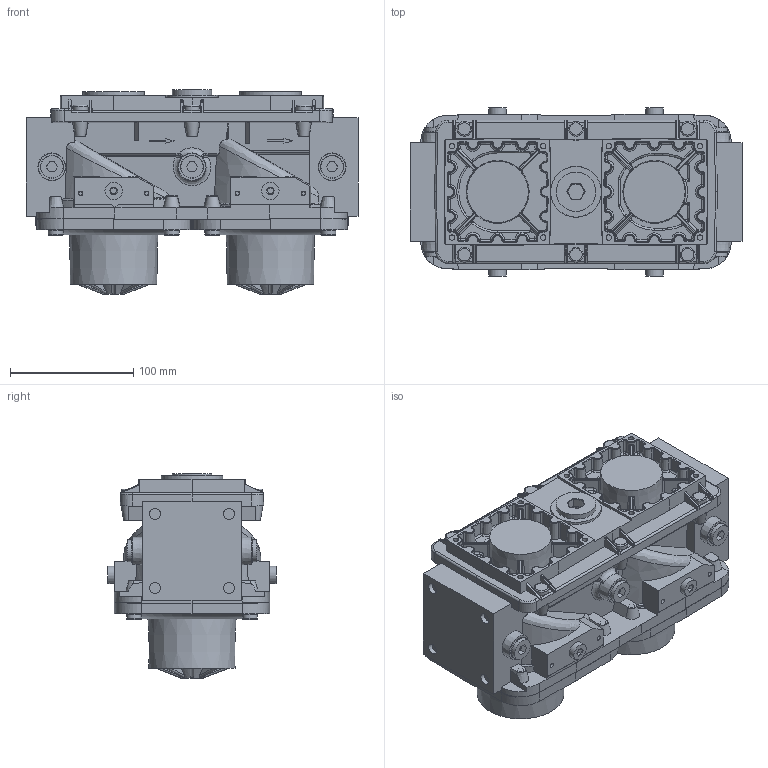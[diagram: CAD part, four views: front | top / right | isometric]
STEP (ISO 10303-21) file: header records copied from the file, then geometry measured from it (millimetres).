
FILE_DESCRIPTION(/* description */ (''),/* implementation_level */ '2;1');
FILE_NAME(/* name */ 'A5W00008884_01.stp',/* time_stamp */ '2016-09-28T09:30:18+02:00',/* author */ (''),/* organization */ (''),/* preprocessor_version */ 'ST-DEVELOPER v15',/* originating_system */ 'SIEMENS PLM Software NX 8.5',/* authorisation */ '');
FILE_SCHEMA (('AUTOMOTIVE_DESIGN { 1 0 10303 214 3 1 1 1 }'));
Products named in the file (1): ront10700C5F7c2d
Bounding box: 269 x 136.2 x 165.3 mm (x, y, z)
Volume: 2964540.7 mm3; surface area: 251139.8 mm2
Topology: 1 solids, 74 shells, 2451 faces, 5864 edges, 3499 vertices
Faces by surface type: plane 876, bspline 685, cylinder 398, cone 218, torus 190, sphere 84
Full cylindrical faces by diameter (mm): 4.351 x8, 5 x4, 6 x18, 6.5 x6, 7 x6, 9 x14, 9.728 x4, 10 x4, 11.45 x2, 12 x14, 13.5 x6, 14 x5, 18 x6, 18.5 x6, 32 x1
Entity records: 87903 total; most frequent: CARTESIAN_POINT 38250, ORIENTED_EDGE 10702, DIRECTION 9284, EDGE_CURVE 5351, AXIS2_PLACEMENT_3D 3788, VERTEX_POINT 3353, EDGE_LOOP 2824, ADVANCED_FACE 2451
